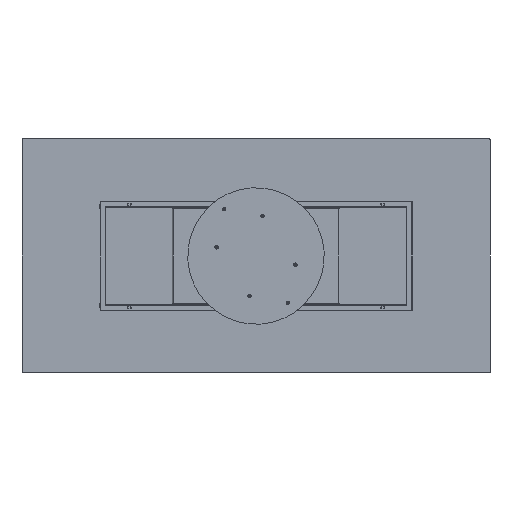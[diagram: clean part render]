
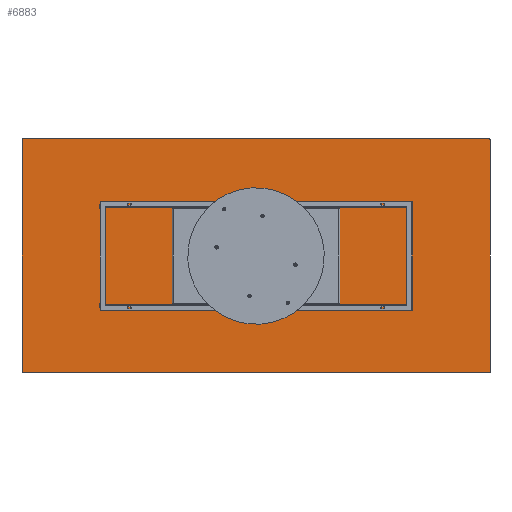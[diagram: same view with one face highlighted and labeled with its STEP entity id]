
A CAD part, front view. The second image highlights one B-rep face of the part: STEP entity #6883.
In plain terms, the highlighted planar face has unit normal (0, -1, 0).
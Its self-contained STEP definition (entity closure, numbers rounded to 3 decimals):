
#63 = DIRECTION ( 'NONE',  ( 0., 0., 1. ) ) ;
#412 = DIRECTION ( 'NONE',  ( 0., -1., 0. ) ) ;
#585 = EDGE_CURVE ( 'NONE', #12815, #12368, #5040, .T. ) ;
#672 = CARTESIAN_POINT ( 'NONE',  ( -1200., 0., 595. ) ) ;
#777 = VERTEX_POINT ( 'NONE', #672 ) ;
#1272 = VERTEX_POINT ( 'NONE', #4600 ) ;
#1383 = CIRCLE ( 'NONE', #3391, 5. ) ;
#1633 = CARTESIAN_POINT ( 'NONE',  ( -1195., 0., -595. ) ) ;
#1853 = AXIS2_PLACEMENT_3D ( 'NONE', #14673, #3533, #63 ) ;
#2135 = CARTESIAN_POINT ( 'NONE',  ( -1200., 0., 600. ) ) ;
#2146 = ORIENTED_EDGE ( 'NONE', *, *, #3118, .T. ) ;
#3118 = EDGE_CURVE ( 'NONE', #6724, #8617, #5797, .T. ) ;
#3317 = LINE ( 'NONE', #15935, #11845 ) ;
#3391 = AXIS2_PLACEMENT_3D ( 'NONE', #7635, #19196, #13925 ) ;
#3434 = EDGE_CURVE ( 'NONE', #1272, #8617, #3317, .T. ) ;
#3533 = DIRECTION ( 'NONE',  ( 0., -1., 0. ) ) ;
#3709 = CARTESIAN_POINT ( 'NONE',  ( 1195., 0., 600. ) ) ;
#4311 = DIRECTION ( 'NONE',  ( 0., 1., 0. ) ) ;
#4600 = CARTESIAN_POINT ( 'NONE',  ( 1200., 0., 595. ) ) ;
#5040 = CIRCLE ( 'NONE', #17484, 5. ) ;
#5147 = ORIENTED_EDGE ( 'NONE', *, *, #585, .T. ) ;
#5470 = AXIS2_PLACEMENT_3D ( 'NONE', #8302, #412, #6816 ) ;
#5797 = CIRCLE ( 'NONE', #5470, 5. ) ;
#6207 = CIRCLE ( 'NONE', #1853, 5. ) ;
#6724 = VERTEX_POINT ( 'NONE', #12820 ) ;
#6748 = LINE ( 'NONE', #13139, #14215 ) ;
#6816 = DIRECTION ( 'NONE',  ( 0., 0., 1. ) ) ;
#6883 = ADVANCED_FACE ( 'NONE', ( #7468 ), #15154, .F. ) ;
#7450 = CARTESIAN_POINT ( 'NONE',  ( 1200., 0., -595. ) ) ;
#7468 = FACE_OUTER_BOUND ( 'NONE', #10792, .T. ) ;
#7635 = CARTESIAN_POINT ( 'NONE',  ( -1195., 0., 595. ) ) ;
#8039 = DIRECTION ( 'NONE',  ( 0., -1., 0. ) ) ;
#8268 = ORIENTED_EDGE ( 'NONE', *, *, #12417, .F. ) ;
#8302 = CARTESIAN_POINT ( 'NONE',  ( 1195., 0., -595. ) ) ;
#8617 = VERTEX_POINT ( 'NONE', #7450 ) ;
#8749 = DIRECTION ( 'NONE',  ( 1., 0., 0. ) ) ;
#9079 = LINE ( 'NONE', #10963, #9114 ) ;
#9108 = EDGE_CURVE ( 'NONE', #19441, #777, #1383, .T. ) ;
#9114 = VECTOR ( 'NONE', #20440, 1000. ) ;
#9602 = EDGE_CURVE ( 'NONE', #12815, #777, #9079, .T. ) ;
#9831 = EDGE_CURVE ( 'NONE', #19441, #14465, #11167, .T. ) ;
#10017 = CARTESIAN_POINT ( 'NONE',  ( -1195., 0., -600. ) ) ;
#10320 = DIRECTION ( 'NONE',  ( 0., 0., 1. ) ) ;
#10580 = CARTESIAN_POINT ( 'NONE',  ( -1200., 0., -595. ) ) ;
#10683 = ORIENTED_EDGE ( 'NONE', *, *, #13891, .T. ) ;
#10792 = EDGE_LOOP ( 'NONE', ( #18739, #10683, #11327, #13025, #13018, #5147, #8268, #2146 ) ) ;
#10963 = CARTESIAN_POINT ( 'NONE',  ( -1200., 0., -600. ) ) ;
#11130 = CARTESIAN_POINT ( 'NONE',  ( -1195., 0., 600. ) ) ;
#11167 = LINE ( 'NONE', #2135, #15163 ) ;
#11327 = ORIENTED_EDGE ( 'NONE', *, *, #9831, .F. ) ;
#11845 = VECTOR ( 'NONE', #16134, 1000. ) ;
#12368 = VERTEX_POINT ( 'NONE', #10017 ) ;
#12417 = EDGE_CURVE ( 'NONE', #6724, #12368, #6748, .T. ) ;
#12815 = VERTEX_POINT ( 'NONE', #10580 ) ;
#12820 = CARTESIAN_POINT ( 'NONE',  ( 1195., 0., -600. ) ) ;
#13018 = ORIENTED_EDGE ( 'NONE', *, *, #9602, .F. ) ;
#13025 = ORIENTED_EDGE ( 'NONE', *, *, #9108, .T. ) ;
#13139 = CARTESIAN_POINT ( 'NONE',  ( -1200., 0., -600. ) ) ;
#13758 = AXIS2_PLACEMENT_3D ( 'NONE', #20103, #4311, #10320 ) ;
#13891 = EDGE_CURVE ( 'NONE', #1272, #14465, #6207, .T. ) ;
#13925 = DIRECTION ( 'NONE',  ( 0., 0., 1. ) ) ;
#14215 = VECTOR ( 'NONE', #19590, 1000. ) ;
#14437 = DIRECTION ( 'NONE',  ( 0., 0., 1. ) ) ;
#14465 = VERTEX_POINT ( 'NONE', #3709 ) ;
#14673 = CARTESIAN_POINT ( 'NONE',  ( 1195., 0., 595. ) ) ;
#15154 = PLANE ( 'NONE',  #13758 ) ;
#15163 = VECTOR ( 'NONE', #8749, 1000. ) ;
#15935 = CARTESIAN_POINT ( 'NONE',  ( 1200., 0., -600. ) ) ;
#16134 = DIRECTION ( 'NONE',  ( 0., 0., -1. ) ) ;
#17484 = AXIS2_PLACEMENT_3D ( 'NONE', #1633, #8039, #14437 ) ;
#18739 = ORIENTED_EDGE ( 'NONE', *, *, #3434, .F. ) ;
#19196 = DIRECTION ( 'NONE',  ( 0., -1., 0. ) ) ;
#19441 = VERTEX_POINT ( 'NONE', #11130 ) ;
#19590 = DIRECTION ( 'NONE',  ( -1., 0., 0. ) ) ;
#20103 = CARTESIAN_POINT ( 'NONE',  ( 0., 0., 0. ) ) ;
#20440 = DIRECTION ( 'NONE',  ( 0., 0., 1. ) ) ;
